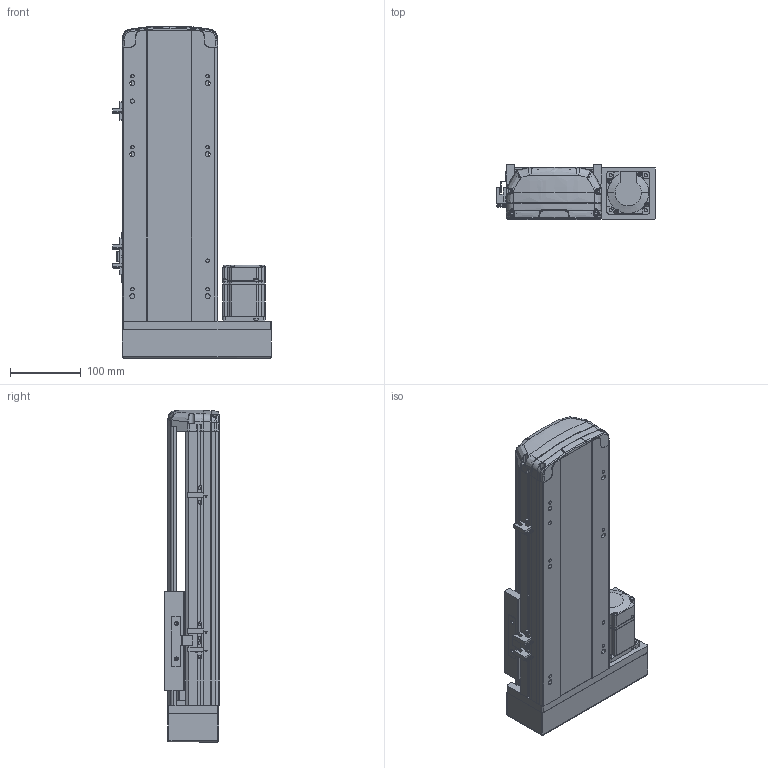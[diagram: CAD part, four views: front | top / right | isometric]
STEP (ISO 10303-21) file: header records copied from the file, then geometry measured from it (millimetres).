
FILE_DESCRIPTION (( 'STEP AP214' ), '1' );
FILE_NAME ('RTH14-XX-200-R-M20-C4.STEP', '2025-10-24T09:51:02', ( 'Microsoft' ), ( 'Microsoft' ), 'SwSTEP 2.0', 'SolidWorks 2018', '' );
FILE_SCHEMA (( 'AUTOMOTIVE_DESIGN' ));
Length unit declared in the file: millimetre
Products named in the file (10): N_MSMD022P1AA_200W^RTH14-XX-XX-R-M20-C4; N_RTH14-R-004-SFSR16賑釱^RTH14-XX-XX-R-M20-C4; N_OMRON EE-SX672 传感器^RTH14-XX-XX-R-M20-C4; RTH14-XX-200-R-M20-C4; N_RTH14-GY-001P^RTH14-XX-XX-R-M20-C4; N_RTH13-L-008-P20 萇儂啣酘蛌殏^RTH14-XX-XX-R-M20-C4; N_RTH13-L-012感应片（外置）^RTH14-XX-XX-R-M20-C4; N_RTH13-L-018 裔赽^RTH14-XX-XX-R-M20-C4; N_RTH14-M-007P奻裔^RTH14-XX-XX-R-M20-C4; N_RTH14-M-011P菁釱^RTH14-XX-XX-R-M20-C4
Assembly tree (11 placements, depth 2):
  RTH14-XX-200-R-M20-C4
    N_RTH14-M-011P菁釱^RTH14-XX-XX-R-M20-C4
    N_RTH14-M-007P奻裔^RTH14-XX-XX-R-M20-C4
    N_MSMD022P1AA_200W^RTH14-XX-XX-R-M20-C4
    N_RTH13-L-008-P20 萇儂啣酘蛌殏^RTH14-XX-XX-R-M20-C4
    N_RTH13-L-018 裔赽^RTH14-XX-XX-R-M20-C4
    N_RTH13-L-012感应片（外置）^RTH14-XX-XX-R-M20-C4
    N_OMRON EE-SX672 传感器^RTH14-XX-XX-R-M20-C4  x3
    N_RTH14-R-004-SFSR16賑釱^RTH14-XX-XX-R-M20-C4
    N_RTH14-GY-001P^RTH14-XX-XX-R-M20-C4
Bounding box: 224 x 78.03 x 467.73 mm (x, y, z)
Volume: 2423278.9 mm3; surface area: 596271.3 mm2
Topology: 10 solids, 12 shells, 1841 faces, 5146 edges, 3373 vertices
Faces by surface type: plane 985, cylinder 461, bspline 346, cone 45, torus 4
Entity records: 56029 total; most frequent: CARTESIAN_POINT 22825, ORIENTED_EDGE 7349, DIRECTION 5832, EDGE_CURVE 3680, VERTEX_POINT 2409, VECTOR 2126, LINE 2126, AXIS2_PLACEMENT_3D 1853
